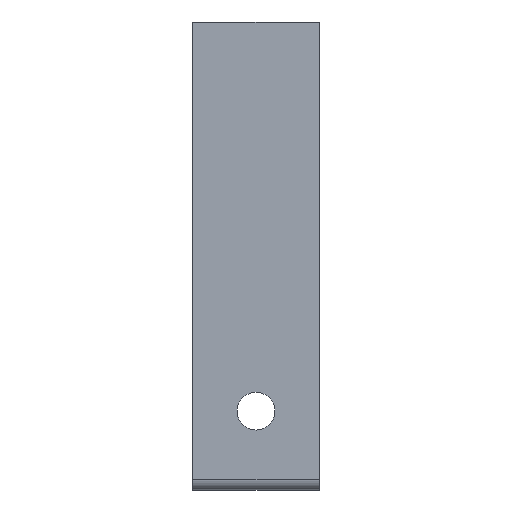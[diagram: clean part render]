
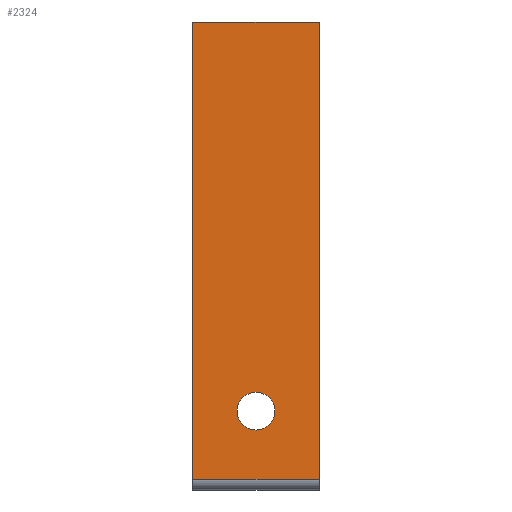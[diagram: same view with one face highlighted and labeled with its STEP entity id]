
A CAD part, front view. The second image highlights one B-rep face of the part: STEP entity #2324.
In plain terms, the highlighted planar face has unit normal (0, -1, 0).
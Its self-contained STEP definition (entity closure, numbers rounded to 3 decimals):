
#38 = PLANE ( 'NONE',  #1421 ) ;
#149 = EDGE_CURVE ( 'NONE', #1032, #2508, #1697, .T. ) ;
#217 = CIRCLE ( 'NONE', #1453, 9. ) ;
#250 = DIRECTION ( 'NONE',  ( 1., 0., 0. ) ) ;
#386 = VECTOR ( 'NONE', #250, 1000. ) ;
#401 = DIRECTION ( 'NONE',  ( 0., 1., 0. ) ) ;
#404 = CARTESIAN_POINT ( 'NONE',  ( 60., -2., -217.487 ) ) ;
#428 = EDGE_LOOP ( 'NONE', ( #2675, #2702 ) ) ;
#525 = EDGE_CURVE ( 'NONE', #2508, #2492, #826, .T. ) ;
#601 = EDGE_LOOP ( 'NONE', ( #1352, #1191, #2862, #802 ) ) ;
#676 = CARTESIAN_POINT ( 'NONE',  ( 60., -2., 0. ) ) ;
#685 = DIRECTION ( 'NONE',  ( 0., 0., 1. ) ) ;
#802 = ORIENTED_EDGE ( 'NONE', *, *, #149, .F. ) ;
#826 = LINE ( 'NONE', #2584, #1102 ) ;
#837 = EDGE_CURVE ( 'NONE', #1996, #1653, #2320, .T. ) ;
#867 = CARTESIAN_POINT ( 'NONE',  ( 30., -2., -185. ) ) ;
#902 = DIRECTION ( 'NONE',  ( 1., 0., 0. ) ) ;
#939 = CARTESIAN_POINT ( 'NONE',  ( 0., -2., 0. ) ) ;
#1016 = AXIS2_PLACEMENT_3D ( 'NONE', #867, #3153, #1656 ) ;
#1032 = VERTEX_POINT ( 'NONE', #939 ) ;
#1051 = DIRECTION ( 'NONE',  ( 0., 0., -1. ) ) ;
#1102 = VECTOR ( 'NONE', #2114, 1000. ) ;
#1182 = FACE_BOUND ( 'NONE', #428, .T. ) ;
#1191 = ORIENTED_EDGE ( 'NONE', *, *, #1218, .T. ) ;
#1218 = EDGE_CURVE ( 'NONE', #2719, #2492, #1729, .T. ) ;
#1352 = ORIENTED_EDGE ( 'NONE', *, *, #2313, .F. ) ;
#1416 = CARTESIAN_POINT ( 'NONE',  ( 30., -2., -194. ) ) ;
#1421 = AXIS2_PLACEMENT_3D ( 'NONE', #3103, #1794, #1051 ) ;
#1424 = CARTESIAN_POINT ( 'NONE',  ( 30., -2., -185. ) ) ;
#1453 = AXIS2_PLACEMENT_3D ( 'NONE', #1424, #401, #685 ) ;
#1573 = EDGE_CURVE ( 'NONE', #1653, #1996, #217, .T. ) ;
#1653 = VERTEX_POINT ( 'NONE', #1938 ) ;
#1656 = DIRECTION ( 'NONE',  ( 0., 0., 1. ) ) ;
#1697 = LINE ( 'NONE', #2689, #2136 ) ;
#1729 = LINE ( 'NONE', #2019, #386 ) ;
#1794 = DIRECTION ( 'NONE',  ( 0., -1., 0. ) ) ;
#1838 = LINE ( 'NONE', #2836, #2924 ) ;
#1938 = CARTESIAN_POINT ( 'NONE',  ( 30., -2., -176. ) ) ;
#1996 = VERTEX_POINT ( 'NONE', #1416 ) ;
#2019 = CARTESIAN_POINT ( 'NONE',  ( 0., -2., -217.487 ) ) ;
#2114 = DIRECTION ( 'NONE',  ( 0., 0., -1. ) ) ;
#2136 = VECTOR ( 'NONE', #902, 1000. ) ;
#2313 = EDGE_CURVE ( 'NONE', #2719, #1032, #1838, .T. ) ;
#2320 = CIRCLE ( 'NONE', #1016, 9. ) ;
#2324 = ADVANCED_FACE ( 'NONE', ( #1182, #3118 ), #38, .T. ) ;
#2492 = VERTEX_POINT ( 'NONE', #404 ) ;
#2503 = CARTESIAN_POINT ( 'NONE',  ( 0., -2., -217.487 ) ) ;
#2508 = VERTEX_POINT ( 'NONE', #676 ) ;
#2584 = CARTESIAN_POINT ( 'NONE',  ( 60., -2., 0. ) ) ;
#2675 = ORIENTED_EDGE ( 'NONE', *, *, #1573, .T. ) ;
#2689 = CARTESIAN_POINT ( 'NONE',  ( 0., -2., 0. ) ) ;
#2702 = ORIENTED_EDGE ( 'NONE', *, *, #837, .T. ) ;
#2719 = VERTEX_POINT ( 'NONE', #2503 ) ;
#2836 = CARTESIAN_POINT ( 'NONE',  ( 0., -2., 0. ) ) ;
#2862 = ORIENTED_EDGE ( 'NONE', *, *, #525, .F. ) ;
#2924 = VECTOR ( 'NONE', #3058, 1000. ) ;
#3058 = DIRECTION ( 'NONE',  ( 0., 0., 1. ) ) ;
#3103 = CARTESIAN_POINT ( 'NONE',  ( 0., -2., 0. ) ) ;
#3118 = FACE_OUTER_BOUND ( 'NONE', #601, .T. ) ;
#3153 = DIRECTION ( 'NONE',  ( 0., 1., 0. ) ) ;
